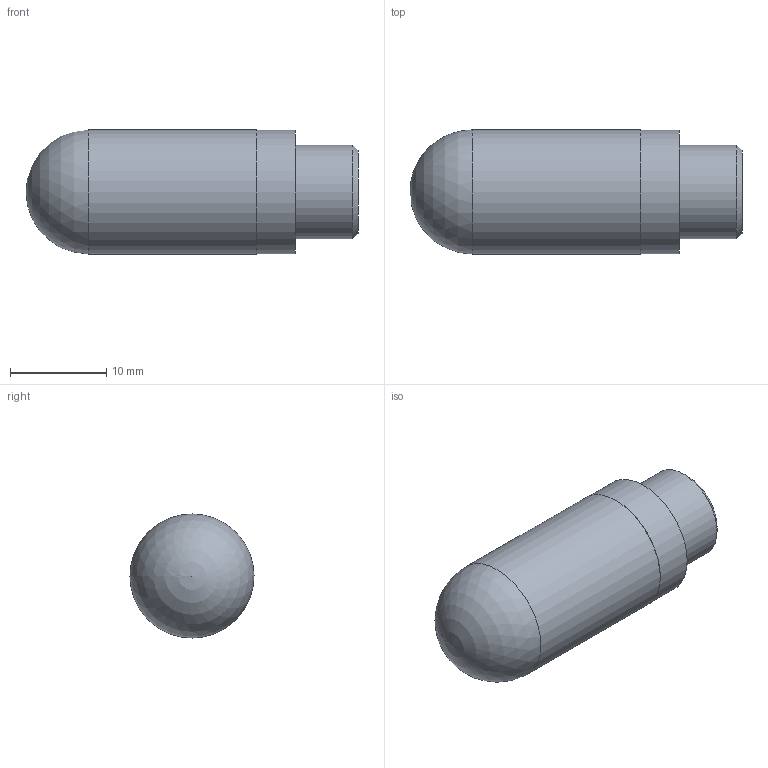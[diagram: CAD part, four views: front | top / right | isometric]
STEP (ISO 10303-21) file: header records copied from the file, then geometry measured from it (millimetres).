
FILE_DESCRIPTION(/* description */ ('STEP AP203'),/* implementation_level */ '2;1');
FILE_NAME(/* name */ '2928 1_8',/* time_stamp */ '2023-04-06T15:02:07+02:00',/* author */ ('License CC BY-ND 4.0'),/* organization */ ('CADENAS'),/* preprocessor_version */ 'ST-DEVELOPER v19.3',/* originating_system */ 'PARTsolutions',/* authorisation */ ' ');
FILE_SCHEMA (('CONFIG_CONTROL_DESIGN'));
Length unit declared in the file: millimetre
Products named in the file (1): 2928 1/8
Bounding box: 34.5 x 12.9 x 12.9 mm (x, y, z)
Volume: 3848.6 mm3; surface area: 1452 mm2
Topology: 1 solids, 1 shells, 8 faces, 13 edges, 8 vertices
Faces by surface type: cylinder 3, plane 3, sphere 1, cone 1
Full cylindrical faces by diameter (mm): 9.728 x1, 12.8 x1, 12.9 x1
Entity records: 184 total; most frequent: DIRECTION 32, CARTESIAN_POINT 23, AXIS2_PLACEMENT_3D 16, ORIENTED_EDGE 14, EDGE_LOOP 14, FACE_BOUND 14, ADVANCED_FACE 8, EDGE_CURVE 7
